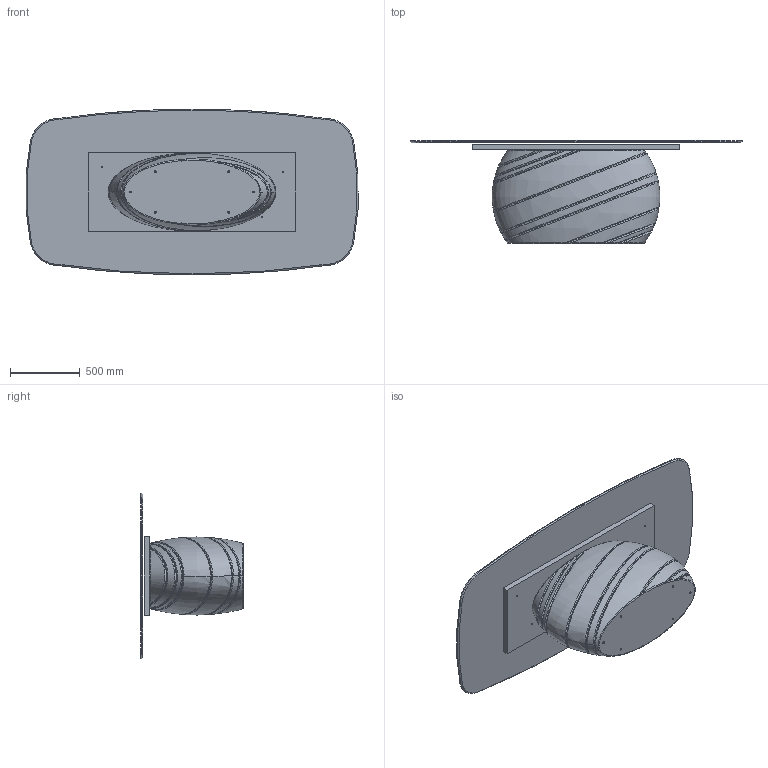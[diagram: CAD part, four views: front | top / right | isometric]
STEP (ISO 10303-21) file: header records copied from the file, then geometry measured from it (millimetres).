
FILE_DESCRIPTION (( 'STEP AP203' ), '1' );
FILE_NAME ('cer 239x119 sag.STEP', '2025-05-26T14:01:55', ( '' ), ( '' ), 'SwSTEP 2.0', 'SolidWorks 2022', '' );
FILE_SCHEMA (( 'CONFIG_CONTROL_DESIGN' ));
Length unit declared in the file: millimetre
Products named in the file (3): GIB000xxx-00-BASE GIOVE X 300; cer 239x119 sag; PIANI_modello 3D x web_Ceramica 239x119 sag
Assembly tree (2 placements, depth 2):
  cer 239x119 sag
    PIANI_modello 3D x web_Ceramica 239x119 sag
    GIB000xxx-00-BASE GIOVE X 300
Bounding box: 2382.15 x 738 x 1190 mm (x, y, z)
Volume: 391842433.7 mm3; surface area: 9929936.9 mm2
Topology: 3 solids, 3 shells, 170 faces, 415 edges, 266 vertices
Faces by surface type: cylinder 53, bspline 53, cone 33, plane 31
Entity records: 37660 total; most frequent: CARTESIAN_POINT 33679, ORIENTED_EDGE 830, DIRECTION 658, EDGE_CURVE 415, AXIS2_PLACEMENT_3D 274, VERTEX_POINT 266, EDGE_LOOP 205, ADVANCED_FACE 170
